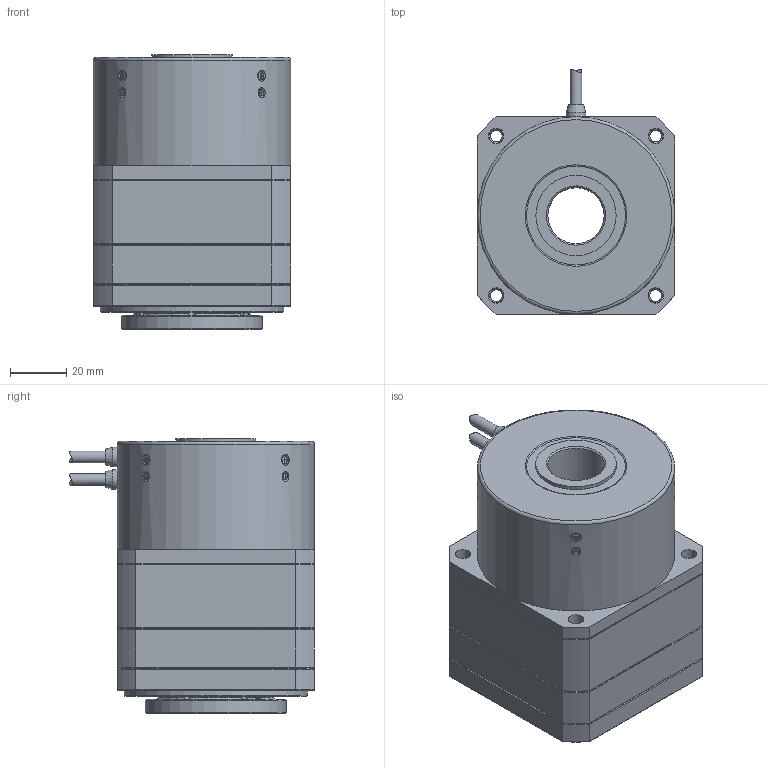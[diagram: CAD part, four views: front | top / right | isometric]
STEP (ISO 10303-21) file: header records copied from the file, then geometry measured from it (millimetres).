
FILE_DESCRIPTION(('STEP AP203'),'1');
FILE_NAME('EG09SH.stp','2023-02-23T03:13:07',(' '),(' '),'Spatial InterOp 3D',' ',' ');
FILE_SCHEMA(('CONFIG_CONTROL_DESIGN'));
Length unit declared in the file: millimetre
Products named in the file (10): L22I04F MDH-7018-■■■EG09SH; 041976 3芯屈曲ケーブル(4.2)0.3M-TE; - ケーブルモデルAssy用; 4.2ゴムブッシュ; 041977 14芯屈曲ケーブル(4.2)0.3M-HRS; - ケーブルモデル(Assy); ケーブルプッシュφ4.2 - コピー; 018238 サラコネジ M2×2.5; 043302 タップサラネジ M1.6×2.1 3F
Assembly tree (15 placements, depth 3):
  L22I04F MDH-7018-■■■EG09SH
    L22I04F MDH-7018-■■■EG09SH
    041976 3芯屈曲ケーブル(4.2)0.3M-TE
      - ケーブルモデルAssy用
      4.2ゴムブッシュ
    041977 14芯屈曲ケーブル(4.2)0.3M-HRS
      - ケーブルモデル(Assy)
      ケーブルプッシュφ4.2 - コピー
    018238 サラコネジ M2×2.5  x4
    043302 タップサラネジ M1.6×2.1 3F  x4
Bounding box: 70 x 86.84 x 97.4 mm (x, y, z)
Volume: 369530.1 mm3; surface area: 51429 mm2
Topology: 13 solids, 29 shells, 776 faces, 1822 edges, 1136 vertices
Faces by surface type: plane 421, cylinder 202, cone 145, torus 8
Full cylindrical faces by diameter (mm): 1.5 x4, 1.6 x8, 2 x8, 2.3 x4, 2.5 x14, 2.693 x8, 3 x20, 3.2 x8, 3.8 x4, 4.2 x12, 5.5 x24, 5.7 x4, 6.2 x8, 7 x2, 20 x2, 24 x1, 27.917 x1, 28.5 x1, 50 x1, 60 x1, 65 x1, 70 x1
Entity records: 18864 total; most frequent: CARTESIAN_POINT 3941, DIRECTION 3094, ORIENTED_EDGE 2416, AXIS2_PLACEMENT_3D 1259, EDGE_CURVE 1208, EDGE_LOOP 984, VERTEX_POINT 860, FACE_OUTER_BOUND 783
